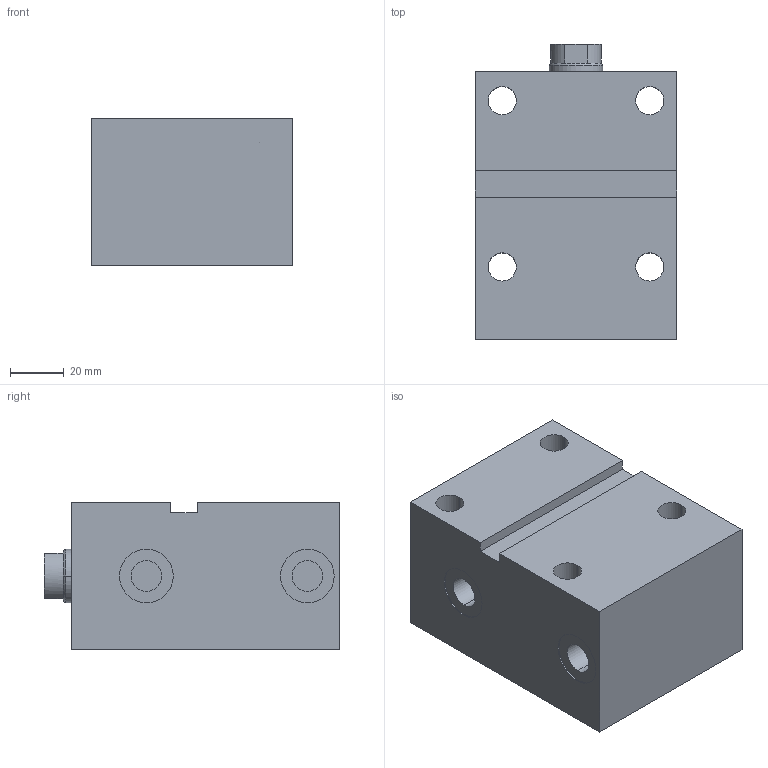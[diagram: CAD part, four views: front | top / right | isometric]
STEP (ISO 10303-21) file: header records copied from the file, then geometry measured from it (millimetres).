
FILE_DESCRIPTION (( 'STEP AP203' ), '1' );
FILE_NAME ('GERMA_Blockzylinder_601-032-050.STEP', '2015-06-20T18:11:14', ( '' ), ( '' ), 'SwSTEP 2.0', 'SolidWorks 2013', '' );
FILE_SCHEMA (( 'CONFIG_CONTROL_DESIGN' ));
Length unit declared in the file: millimetre
Products named in the file (3): GH-600-032_GH-601-032-050; Kolben 60x-032_Kolben DU.32-Hub50-IG; GERMA_Blockzylinder_601-032-050
Assembly tree (2 placements, depth 2):
  GERMA_Blockzylinder_601-032-050
    GH-600-032_GH-601-032-050
    Kolben 60x-032_Kolben DU.32-Hub50-IG
Bounding box: 75 x 110 x 55 mm (x, y, z)
Volume: 363582.3 mm3; surface area: 60463.5 mm2
Topology: 2 solids, 2 shells, 77 faces, 172 edges, 106 vertices
Faces by surface type: cylinder 37, plane 26, cone 14
Entity records: 2434 total; most frequent: DIRECTION 415, CARTESIAN_POINT 354, ORIENTED_EDGE 332, AXIS2_PLACEMENT_3D 167, EDGE_CURVE 166, VERTEX_POINT 106, EDGE_LOOP 98, CIRCLE 85
